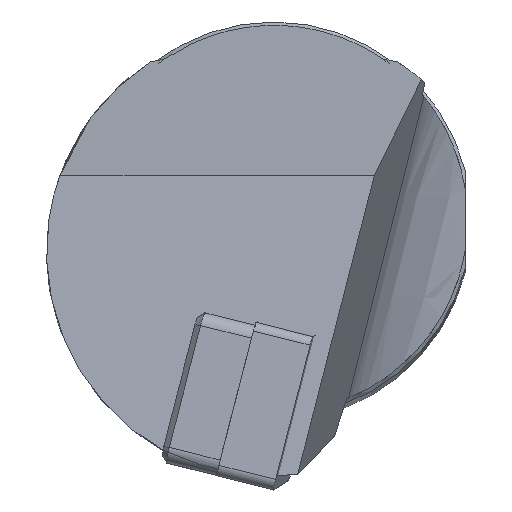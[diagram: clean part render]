
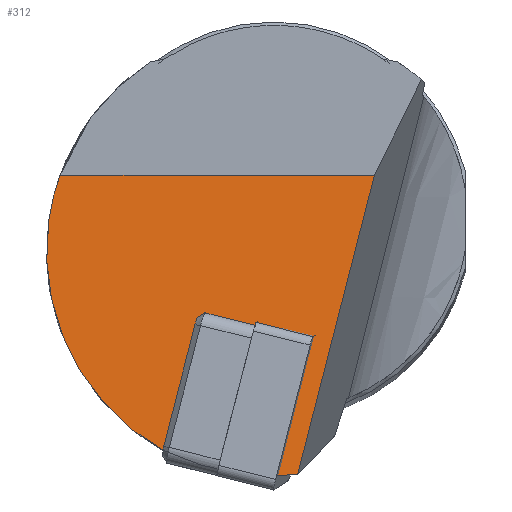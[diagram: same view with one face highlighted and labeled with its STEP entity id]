
A CAD part, top view. The second image highlights one B-rep face of the part: STEP entity #312.
In plain terms, the highlighted planar face has unit normal (0, 0.082, 0.997).
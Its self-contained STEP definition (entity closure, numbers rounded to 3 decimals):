
#151=PLANE('',#1064);
#176=LINE('',#1498,#238);
#179=LINE('',#1509,#241);
#238=VECTOR('',#1177,1.);
#241=VECTOR('',#1188,1.);
#300=ELLIPSE('',#1055,20.741,20.67);
#304=ELLIPSE('',#1063,18.477,18.414);
#312=ADVANCED_FACE('',(#383),#151,.F.);
#383=FACE_OUTER_BOUND('',#429,.T.);
#429=EDGE_LOOP('',(#561,#562,#563,#564));
#561=ORIENTED_EDGE('',*,*,#903,.T.);
#562=ORIENTED_EDGE('',*,*,#909,.F.);
#563=ORIENTED_EDGE('',*,*,#915,.T.);
#564=ORIENTED_EDGE('',*,*,#916,.F.);
#812=VERTEX_POINT('',#1468);
#813=VERTEX_POINT('',#1470);
#818=VERTEX_POINT('',#1499);
#822=VERTEX_POINT('',#1510);
#903=EDGE_CURVE('',#813,#812,#300,.T.);
#909=EDGE_CURVE('',#818,#812,#176,.T.);
#915=EDGE_CURVE('',#818,#822,#179,.T.);
#916=EDGE_CURVE('',#813,#822,#304,.T.);
#1055=AXIS2_PLACEMENT_3D('',#1469,#1169,#1170);
#1063=AXIS2_PLACEMENT_3D('',#1511,#1189,#1190);
#1064=AXIS2_PLACEMENT_3D('',#1512,#1191,#1192);
#1169=DIRECTION('',(0.,0.082,0.997));
#1170=DIRECTION('',(0.,-0.997,0.082));
#1177=DIRECTION('',(-0.248,-0.966,0.08));
#1188=DIRECTION('',(-1.,0.,0.));
#1189=DIRECTION('',(0.,-0.082,-0.997));
#1190=DIRECTION('',(0.,-0.997,0.082));
#1191=DIRECTION('',(0.,-0.082,-0.997));
#1192=DIRECTION('',(0.,0.997,-0.082));
#1468=CARTESIAN_POINT('',(1.922,-20.754,-0.072));
#1469=CARTESIAN_POINT('',(0.,-0.173,-1.772));
#1470=CARTESIAN_POINT('',(-8.973,-18.794,-0.234));
#1498=CARTESIAN_POINT('',(2.658,-17.885,-0.309));
#1499=CARTESIAN_POINT('',(8.145,3.5,-2.076));
#1509=CARTESIAN_POINT('',(-20.85,3.5,-2.076));
#1510=CARTESIAN_POINT('',(-17.334,3.5,-2.076));
#1511=CARTESIAN_POINT('',(0.,-2.714,-1.562));
#1512=CARTESIAN_POINT('',(-20.85,-21.629,0.));
